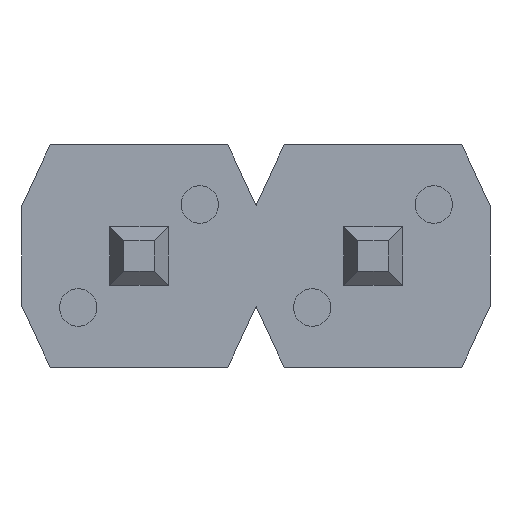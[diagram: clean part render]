
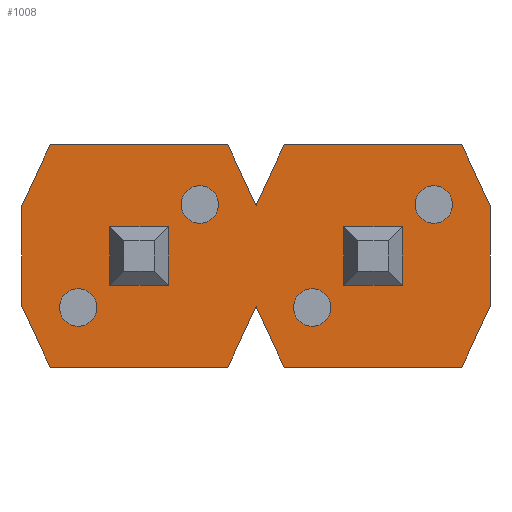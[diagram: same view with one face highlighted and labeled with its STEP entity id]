
A CAD part, front view. The second image highlights one B-rep face of the part: STEP entity #1008.
In plain terms, the highlighted planar face has unit normal (0, -1, 0).
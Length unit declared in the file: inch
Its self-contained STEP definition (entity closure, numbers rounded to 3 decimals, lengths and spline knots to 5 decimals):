
#1=CARTESIAN_POINT('',(0.074,0.,-0.022));
#2=DIRECTION('',(0.,-1.,0.));
#3=DIRECTION('',(1.,0.,0.));
#4=AXIS2_PLACEMENT_3D('',#1,#2,#3);
#6=CARTESIAN_POINT('',(0.074,0.,-0.022));
#7=DIRECTION('',(0.,-1.,0.));
#8=DIRECTION('',(-1.,0.,0.));
#9=AXIS2_PLACEMENT_3D('',#6,#7,#8);
#11=CARTESIAN_POINT('',(0.126,0.,0.022));
#12=DIRECTION('',(0.,-1.,0.));
#13=DIRECTION('',(1.,0.,0.));
#14=AXIS2_PLACEMENT_3D('',#11,#12,#13);
#16=CARTESIAN_POINT('',(0.126,0.,0.022));
#17=DIRECTION('',(0.,-1.,0.));
#18=DIRECTION('',(-1.,0.,0.));
#19=AXIS2_PLACEMENT_3D('',#16,#17,#18);
#21=CARTESIAN_POINT('',(0.026,0.,0.022));
#22=DIRECTION('',(0.,-1.,0.));
#23=DIRECTION('',(1.,0.,0.));
#24=AXIS2_PLACEMENT_3D('',#21,#22,#23);
#26=CARTESIAN_POINT('',(0.026,0.,0.022));
#27=DIRECTION('',(0.,-1.,0.));
#28=DIRECTION('',(-1.,0.,0.));
#29=AXIS2_PLACEMENT_3D('',#26,#27,#28);
#31=CARTESIAN_POINT('',(-0.026,0.,-0.022));
#32=DIRECTION('',(0.,-1.,0.));
#33=DIRECTION('',(1.,0.,0.));
#34=AXIS2_PLACEMENT_3D('',#31,#32,#33);
#36=CARTESIAN_POINT('',(-0.026,0.,-0.022));
#37=DIRECTION('',(0.,-1.,0.));
#38=DIRECTION('',(-1.,0.,0.));
#39=AXIS2_PLACEMENT_3D('',#36,#37,#38);
#41=DIRECTION('',(0.419,0.,-0.908));
#42=VECTOR('',#41,0.02864);
#43=CARTESIAN_POINT('',(0.038,0.,0.0475));
#44=LINE('888',#43,#42);
#45=DIRECTION('',(0.419,0.,0.908));
#46=VECTOR('',#45,0.02864);
#47=CARTESIAN_POINT('',(0.05,0.,0.0215));
#48=LINE('892',#47,#46);
#49=DIRECTION('',(0.419,0.,-0.908));
#50=VECTOR('',#49,0.02864);
#51=CARTESIAN_POINT('',(0.138,0.,0.0475));
#52=LINE('697',#51,#50);
#53=DIRECTION('',(-0.419,0.,-0.908));
#54=VECTOR('',#53,0.02864);
#55=CARTESIAN_POINT('',(0.15,0.,-0.0215));
#56=LINE('691',#55,#54);
#57=DIRECTION('',(-0.419,0.,0.908));
#58=VECTOR('',#57,0.02864);
#59=CARTESIAN_POINT('',(0.062,0.,-0.0475));
#60=LINE('891',#59,#58);
#61=DIRECTION('',(-0.419,0.,-0.908));
#62=VECTOR('',#61,0.02864);
#63=CARTESIAN_POINT('',(0.05,0.,-0.0215));
#64=LINE('887',#63,#62);
#65=DIRECTION('',(-0.419,0.,0.908));
#66=VECTOR('',#65,0.02864);
#67=CARTESIAN_POINT('',(-0.038,0.,-0.0475));
#68=LINE('633',#67,#66);
#69=DIRECTION('',(0.419,0.,0.908));
#70=VECTOR('',#69,0.02864);
#71=CARTESIAN_POINT('',(-0.05,0.,0.0215));
#72=LINE('635',#71,#70);
#73=DIRECTION('',(-1.,0.,0.));
#74=VECTOR('',#73,0.025);
#75=CARTESIAN_POINT('',(0.0125,0.,-0.0125));
#76=LINE('895',#75,#74);
#77=DIRECTION('',(0.,0.,-1.));
#78=VECTOR('',#77,0.025);
#79=CARTESIAN_POINT('',(0.0125,0.,0.0125));
#80=LINE('896',#79,#78);
#81=DIRECTION('',(1.,0.,0.));
#82=VECTOR('',#81,0.025);
#83=CARTESIAN_POINT('',(-0.0125,0.,0.0125));
#84=LINE('898',#83,#82);
#85=DIRECTION('',(0.,0.,1.));
#86=VECTOR('',#85,0.025);
#87=CARTESIAN_POINT('',(-0.0125,0.,-0.0125));
#88=LINE('897',#87,#86);
#89=DIRECTION('',(-1.,0.,0.));
#90=VECTOR('',#89,0.025);
#91=CARTESIAN_POINT('',(0.1125,0.,-0.0125));
#92=LINE('911',#91,#90);
#93=DIRECTION('',(0.,0.,-1.));
#94=VECTOR('',#93,0.025);
#95=CARTESIAN_POINT('',(0.1125,0.,0.0125));
#96=LINE('912',#95,#94);
#97=DIRECTION('',(1.,0.,0.));
#98=VECTOR('',#97,0.025);
#99=CARTESIAN_POINT('',(0.0875,0.,0.0125));
#100=LINE('914',#99,#98);
#101=DIRECTION('',(0.,0.,1.));
#102=VECTOR('',#101,0.025);
#103=CARTESIAN_POINT('',(0.0875,0.,-0.0125));
#104=LINE('913',#103,#102);
#377=DIRECTION('',(1.,0.,0.));
#378=VECTOR('',#377,0.076);
#379=CARTESIAN_POINT('',(0.062,0.,-0.0475));
#380=LINE('692',#379,#378);
#385=DIRECTION('',(0.,0.,1.));
#386=VECTOR('',#385,0.043);
#387=CARTESIAN_POINT('',(0.15,0.,-0.0215));
#388=LINE('698',#387,#386);
#401=DIRECTION('',(-1.,0.,0.));
#402=VECTOR('',#401,0.076);
#403=CARTESIAN_POINT('',(0.138,0.,0.0475));
#404=LINE('696',#403,#402);
#421=DIRECTION('',(1.,0.,0.));
#422=VECTOR('',#421,0.076);
#423=CARTESIAN_POINT('',(-0.038,0.,-0.0475));
#424=LINE('632',#423,#422);
#433=DIRECTION('',(0.,0.,-1.));
#434=VECTOR('',#433,0.043);
#435=CARTESIAN_POINT('',(-0.05,0.,0.0215));
#436=LINE('634',#435,#434);
#449=DIRECTION('',(-1.,0.,0.));
#450=VECTOR('',#449,0.076);
#451=CARTESIAN_POINT('',(0.038,0.,0.0475));
#452=LINE('636',#451,#450);
#713=CARTESIAN_POINT('',(-0.038,0.,-0.0475));
#714=CARTESIAN_POINT('',(0.038,0.,-0.0475));
#715=VERTEX_POINT('',#713);
#716=VERTEX_POINT('',#714);
#717=CARTESIAN_POINT('',(-0.05,0.,-0.0215));
#718=VERTEX_POINT('',#717);
#719=CARTESIAN_POINT('',(-0.05,0.,0.0215));
#720=VERTEX_POINT('',#719);
#721=CARTESIAN_POINT('',(-0.038,0.,0.0475));
#722=VERTEX_POINT('',#721);
#723=CARTESIAN_POINT('',(0.038,0.,0.0475));
#724=VERTEX_POINT('',#723);
#725=CARTESIAN_POINT('',(0.034,0.,0.022));
#726=CARTESIAN_POINT('',(0.018,0.,0.022));
#727=VERTEX_POINT('',#725);
#728=VERTEX_POINT('',#726);
#729=CARTESIAN_POINT('',(-0.018,0.,-0.022));
#730=CARTESIAN_POINT('',(-0.034,0.,-0.022));
#731=VERTEX_POINT('',#729);
#732=VERTEX_POINT('',#730);
#769=CARTESIAN_POINT('',(0.15,0.,-0.0215));
#770=CARTESIAN_POINT('',(0.138,0.,-0.0475));
#771=VERTEX_POINT('',#769);
#772=VERTEX_POINT('',#770);
#773=CARTESIAN_POINT('',(0.062,0.,-0.0475));
#774=VERTEX_POINT('',#773);
#775=CARTESIAN_POINT('',(0.138,0.,0.0475));
#776=CARTESIAN_POINT('',(0.062,0.,0.0475));
#777=VERTEX_POINT('',#775);
#778=VERTEX_POINT('',#776);
#779=CARTESIAN_POINT('',(0.15,0.,0.0215));
#780=VERTEX_POINT('',#779);
#781=CARTESIAN_POINT('',(0.134,0.,0.022));
#782=CARTESIAN_POINT('',(0.118,0.,0.022));
#783=VERTEX_POINT('',#781);
#784=VERTEX_POINT('',#782);
#785=CARTESIAN_POINT('',(0.082,0.,-0.022));
#786=CARTESIAN_POINT('',(0.066,0.,-0.022));
#787=VERTEX_POINT('',#785);
#788=VERTEX_POINT('',#786);
#890=CARTESIAN_POINT('',(0.05,0.,-0.0215));
#892=VERTEX_POINT('',#890);
#893=CARTESIAN_POINT('',(0.05,0.,0.0215));
#895=VERTEX_POINT('',#893);
#897=CARTESIAN_POINT('',(0.0125,0.,-0.0125));
#898=CARTESIAN_POINT('',(-0.0125,0.,-0.0125));
#899=VERTEX_POINT('',#897);
#900=VERTEX_POINT('',#898);
#901=CARTESIAN_POINT('',(0.0125,0.,0.0125));
#902=VERTEX_POINT('',#901);
#903=CARTESIAN_POINT('',(-0.0125,0.,0.0125));
#904=VERTEX_POINT('',#903);
#913=CARTESIAN_POINT('',(0.1125,0.,-0.0125));
#914=CARTESIAN_POINT('',(0.0875,0.,-0.0125));
#915=VERTEX_POINT('',#913);
#916=VERTEX_POINT('',#914);
#917=CARTESIAN_POINT('',(0.1125,0.,0.0125));
#918=VERTEX_POINT('',#917);
#919=CARTESIAN_POINT('',(0.0875,0.,0.0125));
#920=VERTEX_POINT('',#919);
#929=CARTESIAN_POINT('',(0.,0.,0.));
#930=DIRECTION('',(0.,1.,0.));
#931=DIRECTION('',(1.,0.,0.));
#932=AXIS2_PLACEMENT_3D('',#929,#930,#931);
#933=PLANE('803',#932);
#935=ORIENTED_EDGE('888',*,*,#934,.T.);
#937=ORIENTED_EDGE('892',*,*,#936,.T.);
#939=ORIENTED_EDGE('696',*,*,#938,.F.);
#941=ORIENTED_EDGE('697',*,*,#940,.T.);
#943=ORIENTED_EDGE('698',*,*,#942,.F.);
#945=ORIENTED_EDGE('691',*,*,#944,.T.);
#947=ORIENTED_EDGE('692',*,*,#946,.F.);
#949=ORIENTED_EDGE('891',*,*,#948,.T.);
#951=ORIENTED_EDGE('887',*,*,#950,.T.);
#953=ORIENTED_EDGE('632',*,*,#952,.F.);
#955=ORIENTED_EDGE('633',*,*,#954,.T.);
#957=ORIENTED_EDGE('634',*,*,#956,.F.);
#959=ORIENTED_EDGE('635',*,*,#958,.T.);
#961=ORIENTED_EDGE('636',*,*,#960,.F.);
#962=EDGE_LOOP('803',(#935,#937,#939,#941,#943,#945,#947,#949,#951,#953,#955,
#957,#959,#961));
#963=FACE_OUTER_BOUND('803',#962,.F.);
#965=ORIENTED_EDGE('699',*,*,#964,.T.);
#967=ORIENTED_EDGE('700',*,*,#966,.T.);
#968=EDGE_LOOP('803',(#965,#967));
#969=FACE_BOUND('803',#968,.F.);
#971=ORIENTED_EDGE('639',*,*,#970,.T.);
#973=ORIENTED_EDGE('640',*,*,#972,.T.);
#974=EDGE_LOOP('803',(#971,#973));
#975=FACE_BOUND('803',#974,.F.);
#977=ORIENTED_EDGE('641',*,*,#976,.T.);
#979=ORIENTED_EDGE('642',*,*,#978,.T.);
#980=EDGE_LOOP('803',(#977,#979));
#981=FACE_BOUND('803',#980,.F.);
#983=ORIENTED_EDGE('701',*,*,#982,.T.);
#985=ORIENTED_EDGE('702',*,*,#984,.T.);
#986=EDGE_LOOP('803',(#983,#985));
#987=FACE_BOUND('803',#986,.F.);
#989=ORIENTED_EDGE('895',*,*,#988,.F.);
#991=ORIENTED_EDGE('896',*,*,#990,.F.);
#993=ORIENTED_EDGE('898',*,*,#992,.F.);
#995=ORIENTED_EDGE('897',*,*,#994,.F.);
#996=EDGE_LOOP('803',(#989,#991,#993,#995));
#997=FACE_BOUND('803',#996,.F.);
#999=ORIENTED_EDGE('911',*,*,#998,.F.);
#1001=ORIENTED_EDGE('912',*,*,#1000,.F.);
#1003=ORIENTED_EDGE('914',*,*,#1002,.F.);
#1005=ORIENTED_EDGE('913',*,*,#1004,.F.);
#1006=EDGE_LOOP('803',(#999,#1001,#1003,#1005));
#1007=FACE_BOUND('803',#1006,.F.);
#1008=ADVANCED_FACE('803',(#963,#969,#975,#981,#987,#997,#1007),#933,.F.);
#5=CIRCLE('701',#4,0.008);
#10=CIRCLE('702',#9,0.008);
#15=CIRCLE('699',#14,0.008);
#20=CIRCLE('700',#19,0.008);
#25=CIRCLE('639',#24,0.008);
#30=CIRCLE('640',#29,0.008);
#35=CIRCLE('641',#34,0.008);
#40=CIRCLE('642',#39,0.008);
#934=EDGE_CURVE('888',#724,#895,#44,.T.);
#936=EDGE_CURVE('892',#895,#778,#48,.T.);
#938=EDGE_CURVE('696',#777,#778,#404,.T.);
#940=EDGE_CURVE('697',#777,#780,#52,.T.);
#942=EDGE_CURVE('698',#771,#780,#388,.T.);
#944=EDGE_CURVE('691',#771,#772,#56,.T.);
#946=EDGE_CURVE('692',#774,#772,#380,.T.);
#948=EDGE_CURVE('891',#774,#892,#60,.T.);
#950=EDGE_CURVE('887',#892,#716,#64,.T.);
#952=EDGE_CURVE('632',#715,#716,#424,.T.);
#954=EDGE_CURVE('633',#715,#718,#68,.T.);
#956=EDGE_CURVE('634',#720,#718,#436,.T.);
#958=EDGE_CURVE('635',#720,#722,#72,.T.);
#960=EDGE_CURVE('636',#724,#722,#452,.T.);
#964=EDGE_CURVE('699',#783,#784,#15,.T.);
#966=EDGE_CURVE('700',#784,#783,#20,.T.);
#970=EDGE_CURVE('639',#727,#728,#25,.T.);
#972=EDGE_CURVE('640',#728,#727,#30,.T.);
#976=EDGE_CURVE('641',#731,#732,#35,.T.);
#978=EDGE_CURVE('642',#732,#731,#40,.T.);
#982=EDGE_CURVE('701',#787,#788,#5,.T.);
#984=EDGE_CURVE('702',#788,#787,#10,.T.);
#988=EDGE_CURVE('895',#899,#900,#76,.T.);
#990=EDGE_CURVE('896',#902,#899,#80,.T.);
#992=EDGE_CURVE('898',#904,#902,#84,.T.);
#994=EDGE_CURVE('897',#900,#904,#88,.T.);
#998=EDGE_CURVE('911',#915,#916,#92,.T.);
#1000=EDGE_CURVE('912',#918,#915,#96,.T.);
#1002=EDGE_CURVE('914',#920,#918,#100,.T.);
#1004=EDGE_CURVE('913',#916,#920,#104,.T.);
